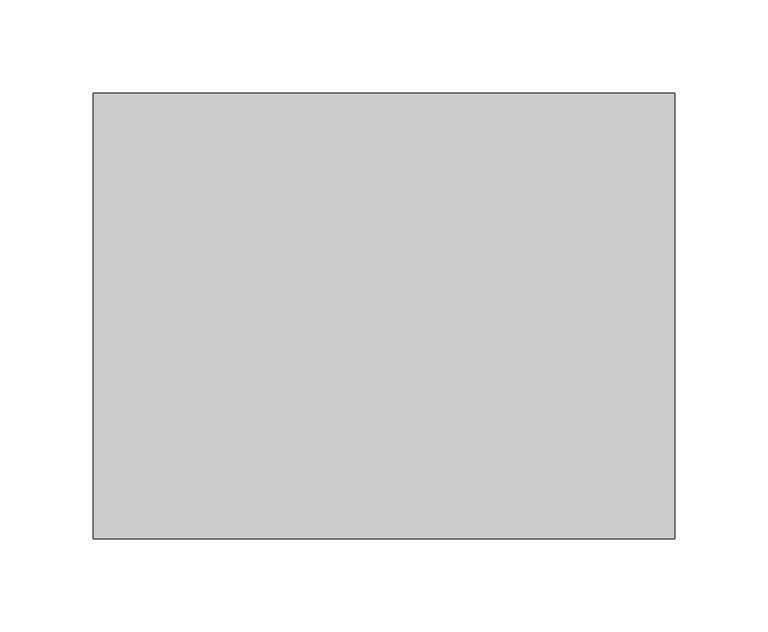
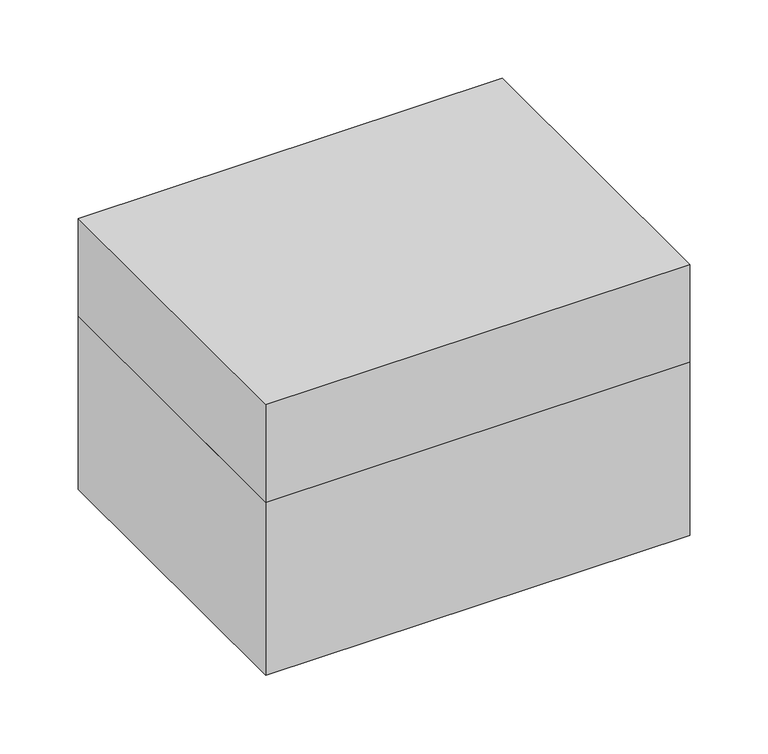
"""IFC4 building model written with IfcOpenShell, lengths in millimetres: cable carrier fitting geometry."""

from ifc_helpers import new_model, si_unit, origin, place, context, project, spatial, faceted_brep, source, transform, mapped, element, save


def cable_carrier_fitting_43ae8ca0(model_context):
    return source(origin(), model_context, "Body", "Brep", [
        faceted_brep([(156.0, 119.5, 211.0), (-156.0, 119.5, 211.0), (-156.0, -119.5, 211.0), (156.0, -119.5, 211.0), (-154.0, -117.5, 209.0), (-154.0, 117.5, 209.0), (154.0, 117.5, 209.0), (154.0, -117.5, 209.0), (156.0, 119.5, 135.0), (156.0, -119.5, 135.0), (-156.0, -119.5, 135.0), (-156.0, 119.5, 135.0), (-154.0, -117.5, 135.0), (154.0, -117.5, 135.0), (154.0, 117.5, 135.0), (-154.0, 117.5, 135.0)], [[[0, 1, 2, 3]], [[4, 5, 6, 7]], [[8, 9, 10, 11], [12, 13, 14, 15]], [[1, 0, 8, 11]], [[2, 1, 11, 10]], [[3, 2, 10, 9]], [[0, 3, 9, 8]], [[12, 15, 5, 4]], [[15, 14, 6, 5]], [[14, 13, 7, 6]], [[13, 12, 4, 7]]]),
        faceted_brep([(-154.0, -117.5, 2.0), (154.0, -117.5, 2.0), (154.0, 117.5, 2.0), (-154.0, 117.5, 2.0), (156.0, 119.5, 0.0), (156.0, -119.5, 0.0), (-156.0, -119.5, 0.0), (-156.0, 119.5, 0.0), (156.0, 119.5, 135.0), (-156.0, 119.5, 135.0), (-156.0, -119.5, 135.0), (156.0, -119.5, 135.0), (154.0, -117.5, 135.0), (-154.0, -117.5, 135.0), (-154.0, 117.5, 135.0), (154.0, 117.5, 135.0)], [[[0, 1, 2, 3]], [[4, 5, 6, 7]], [[8, 9, 10, 11], [12, 13, 14, 15]], [[9, 8, 4, 7]], [[10, 9, 7, 6]], [[11, 10, 6, 5]], [[8, 11, 5, 4]], [[13, 12, 1, 0]], [[14, 13, 0, 3]], [[15, 14, 3, 2]], [[12, 15, 2, 1]]]),
    ])


if __name__ == "__main__":
    model = new_model("IFC4")
    model_context = context("Model", 3, world=origin())
    ifc_project = project(units=[si_unit("LENGTHUNIT", "METRE", prefix="MILLI")], contexts=[model_context])
    site = spatial("IfcSite", under=ifc_project)
    building = spatial("IfcBuilding", under=site)
    placement = place(None, origin())
    cable_carrier_fitting_shape = cable_carrier_fitting_43ae8ca0(model_context)
    element("IfcCableCarrierFitting", 1, at=placement, inside=building, context=model_context, shape_type="MappedRepresentation", body=[
        mapped(cable_carrier_fitting_shape, transform((0.0, 0.0, 0.0), x_axis=(1.0, 0.0, 0.0), y_axis=(0.0, 1.0, 0.0), z_axis=(0.0, 0.0, 1.0))),
    ])
    save(model, "model.ifc")
